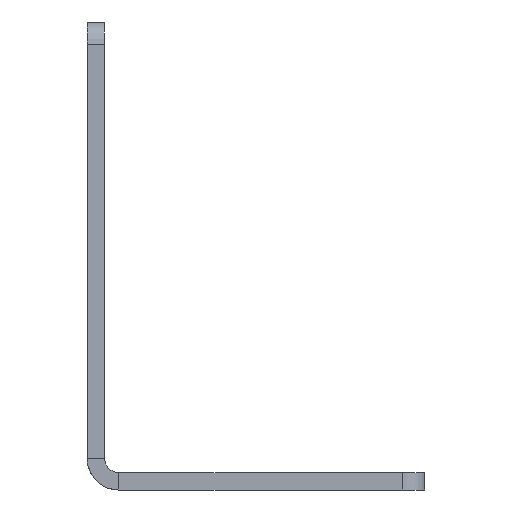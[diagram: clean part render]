
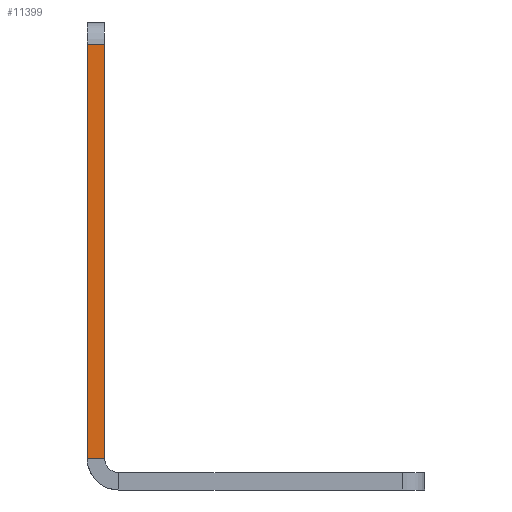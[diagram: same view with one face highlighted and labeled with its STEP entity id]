
A CAD part, front view. The second image highlights one B-rep face of the part: STEP entity #11399.
In plain terms, the highlighted free-form (B-spline) face has degree [1, 1] with [2, 2] control points.
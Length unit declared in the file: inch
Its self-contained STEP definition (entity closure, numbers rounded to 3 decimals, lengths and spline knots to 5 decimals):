
#11333=CARTESIAN_POINT('V147',(0.,0.0,2.5)
   );
#11334=VERTEX_POINT('V147',#11333);
#11348=CARTESIAN_POINT('V640',(0.097,0.,
   2.5));
#11349=VERTEX_POINT('V640',#11348);
#11350=CARTESIAN_POINT('E915',(0.,0.0,2.5)
   );
#11351=CARTESIAN_POINT('E915',(0.097,0.0,
   2.5));
#11352=QUASI_UNIFORM_CURVE('E915',1,(#11350,#11351),.POLYLINE_FORM.,
   .F.,.U.);
#11353=EDGE_CURVE('E915',#11334,#11349,#11352,.T.);
#11372=CARTESIAN_POINT('F109',(0.,0.0,2.5)
   );
#11373=CARTESIAN_POINT('F109',(0.0,0.0,0.177));
#11374=CARTESIAN_POINT('F109',(0.097,0.,
   2.5));
#11375=CARTESIAN_POINT('F109',(0.097,0.,
   0.177));
#11376=QUASI_UNIFORM_SURFACE('F109',1,1,((#11372,#11374),(#11373,
   #11375)),.PLANE_SURF.,.F.,.F.,.U.);
#11377=CARTESIAN_POINT('V148',(0.0,0.0,0.177));
#11378=VERTEX_POINT('V148',#11377);
#11379=CARTESIAN_POINT('E216',(0.,0.0,2.5)
   );
#11380=CARTESIAN_POINT('E216',(0.0,0.0,0.177));
#11381=QUASI_UNIFORM_CURVE('E216',1,(#11379,#11380),.POLYLINE_FORM.,
   .F.,.U.);
#11382=EDGE_CURVE('E216',#11334,#11378,#11381,.T.);
#11383=ORIENTED_EDGE('E216',*,*,#11382,.T.);
#11384=CARTESIAN_POINT('V636',(0.097,0.,
   0.177));
#11385=VERTEX_POINT('V636',#11384);
#11386=CARTESIAN_POINT('E916',(0.0,0.0,0.177));
#11387=CARTESIAN_POINT('E916',(0.097,0.,
   0.177));
#11388=QUASI_UNIFORM_CURVE('E916',1,(#11386,#11387),.POLYLINE_FORM.,
   .F.,.U.);
#11389=EDGE_CURVE('E916',#11378,#11385,#11388,.T.);
#11390=ORIENTED_EDGE('E916',*,*,#11389,.T.);
#11391=CARTESIAN_POINT('E715',(0.097,0.,
   2.5));
#11392=CARTESIAN_POINT('E715',(0.097,0.,
   0.177));
#11393=B_SPLINE_CURVE_WITH_KNOTS('E715',1,(#11391,#11392),
   .POLYLINE_FORM.,.F.,.U.,(2,2),(0.0129,
   0.86017),.UNSPECIFIED.);
#11394=EDGE_CURVE('E715',#11349,#11385,#11393,.T.);
#11395=ORIENTED_EDGE('E715',*,*,#11394,.F.);
#11396=ORIENTED_EDGE('E915',*,*,#11353,.F.);
#11397=EDGE_LOOP('F109',(#11383,#11390,#11395,#11396));
#11398=FACE_OUTER_BOUND('F109',#11397,.T.);
#11399=ADVANCED_FACE('F109',(#11398),#11376,.T.);
